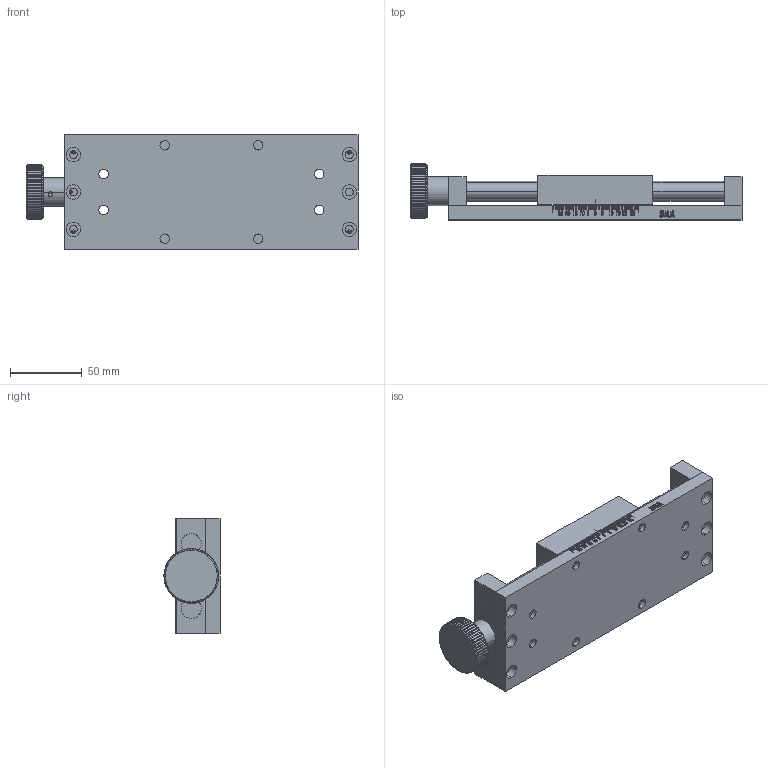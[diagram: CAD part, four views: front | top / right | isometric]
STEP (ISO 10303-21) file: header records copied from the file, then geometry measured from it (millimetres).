
FILE_DESCRIPTION (( 'STEP AP214' ), '1' );
FILE_NAME ('PT-ST100.STEP', '2022-08-21T03:06:33', ( '' ), ( '' ), 'SwSTEP 2.0', 'SolidWorks 2017', '' );
FILE_SCHEMA (( 'AUTOMOTIVE_DESIGN' ));
Length unit declared in the file: millimetre
Products named in the file (7): 菁釱5; 菁釱3; 唅聽38; 菁釱; 賑輸; hex socket set screws with cone point gb_GB_FASTENER_SCREWS_HSCP M4X8-N; PT-ST100
Assembly tree (10 placements, depth 2):
  PT-ST100
    菁釱
    菁釱3
    菁釱5
    賑輸
    hex socket set screws with cone point gb_GB_FASTENER_SCREWS_HSCP M4X8-N  x5
    唅聽38
Bounding box: 231 x 39 x 80 mm (x, y, z)
Volume: 374051.8 mm3; surface area: 91738.4 mm2
Topology: 10 solids, 11 shells, 1544 faces, 4302 edges, 2834 vertices
Faces by surface type: plane 1012, bspline 292, cylinder 194, cone 46
Entity records: 60016 total; most frequent: CARTESIAN_POINT 24107, ORIENTED_EDGE 8196, DIRECTION 5886, EDGE_CURVE 4098, VECTOR 2760, LINE 2760, VERTEX_POINT 2726, EDGE_LOOP 1566
